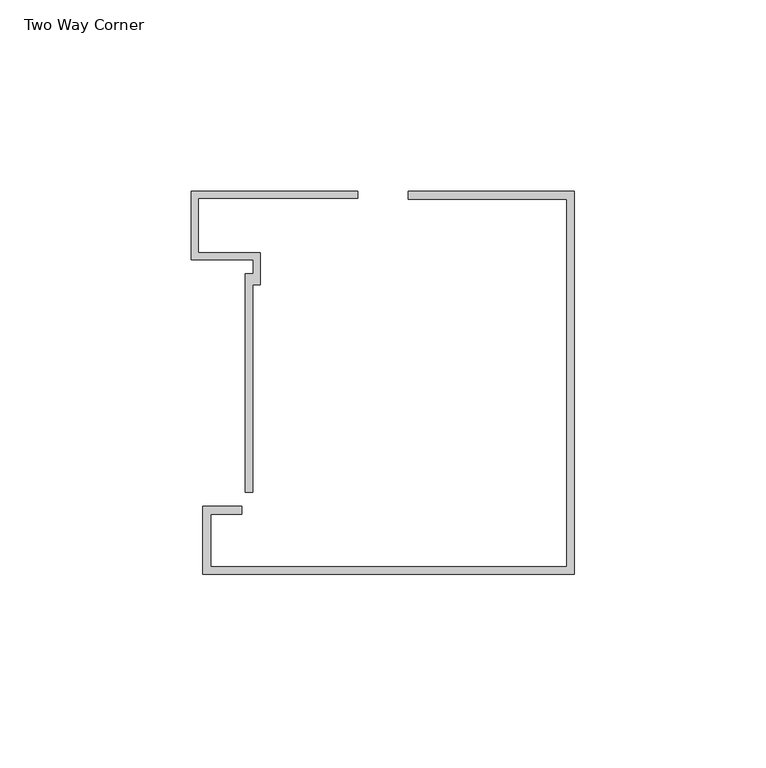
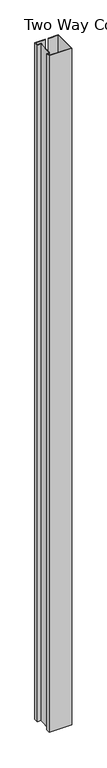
"""IFC4 building model written with IfcOpenShell, lengths in millimetres: proxy geometry, Connection-Corner-Teknion-OptosLP-Two_Way_FZCZ2 : Two Way Corner."""

from ifc_helpers import new_model, si_unit, origin, origin_with_axes, place, context, project, spatial, polyline, outline, extrude, source, transform, mapped, element, save


def two_way_corner_8ae697bf(model_context):
    return source(origin(), model_context, "Body", "SweptSolid", [
        extrude(outline(polyline([(6.5668339, 50.00625), (50.00635, 50.00625), (50.00635, -50.00625), (-47.005969, -50.00625), (-47.005969, -32.2239919), (-36.8446787, -32.2239919), (-36.8446787, -34.25625), (-44.9737109, -34.25625), (-44.9737109, -47.9739919), (47.9740919, -47.9739919), (47.9740919, 47.9739919), (6.5668339, 47.9739919), (6.5668339, 50.00625)])), origin_with_axes(), (0.0, 0.0, 1.0), 3048.0),
        extrude(outline(polyline([(-36.004572, 28.578629), (-33.8753016, 28.578629), (-33.8753016, 32.1731855), (-50.00635, 32.1731855), (-50.00635, 50.00625), (-6.5668339, 50.00625), (-6.5668339, 48.2281242), (-48.2281242, 48.2281242), (-48.2281242, 34.0023178), (-32.0970758, 34.0023178), (-32.0970758, 25.6192532), (-33.9723139, 25.6192532), (-33.9723139, -28.578629), (-36.004572, -28.578629), (-36.004572, 28.578629)])), origin_with_axes(), (0.0, 0.0, 1.0), 3048.0),
    ])


if __name__ == "__main__":
    model = new_model("IFC4")
    model_context = context("Model", 3, world=origin())
    ifc_project = project(units=[si_unit("LENGTHUNIT", "METRE", prefix="MILLI")], contexts=[model_context])
    site = spatial("IfcSite", under=ifc_project)
    building = spatial("IfcBuilding", under=site)
    placement = place(None, origin())
    two_way_corner_shape = two_way_corner_8ae697bf(model_context)
    element("IfcBuildingElementProxy", 1, Name="Connection-Corner-Teknion-OptosLP-Two_Way_FZCZ2 : Two Way Corner", ObjectType="Connection-Corner-Teknion-OptosLP-Two_Way_FZCZ2 : Two Way Corner", at=placement, inside=building, context=model_context, shape_type="MappedRepresentation", body=[
        mapped(two_way_corner_shape, transform((0.0, 0.0, 0.0), x_axis=(1.0, 0.0, 0.0), y_axis=(0.0, 1.0, 0.0), z_axis=(0.0, 0.0, 1.0))),
    ])
    save(model, "model.ifc")
